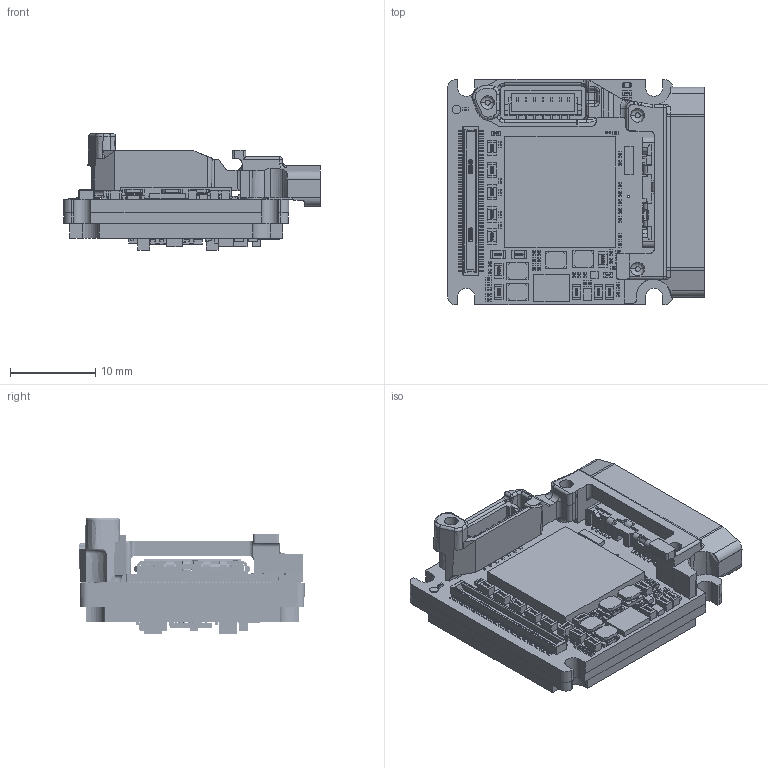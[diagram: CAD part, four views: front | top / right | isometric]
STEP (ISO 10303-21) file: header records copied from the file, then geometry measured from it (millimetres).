
FILE_DESCRIPTION (( 'STEP AP214' ), '1' );
FILE_NAME ('Alvium-USB90-Bare-Board-P480.STEP', '2022-11-18T13:55:25', ( '' ), ( '' ), 'SwSTEP 2.0', 'SolidWorks 2021', '' );
FILE_SCHEMA (( 'AUTOMOTIVE_DESIGN' ));
Length unit declared in the file: millimetre
Products named in the file (1): Alvium-USB90-Bare-Board-P480
Bounding box: 30.1 x 26.45 x 13.67 mm (x, y, z)
Surface area: 4889.8 mm2 (no closed solid volume)
Topology: 0 solids, 140 shells, 9104 faces, 23418 edges, 15285 vertices
Faces by surface type: plane 4490, bspline 3615, cylinder 921, cone 38, torus 32, sphere 8
Entity records: 579472 total; most frequent: CARTESIAN_POINT 281431, ORIENTED_EDGE 46806, DIRECTION 28761, EDGE_CURVE 23403, VERTEX_POINT 15285, VECTOR 14093, LINE 14093, EDGE_LOOP 9854
